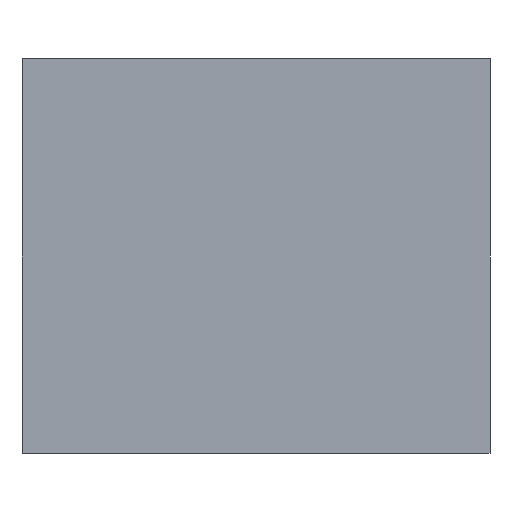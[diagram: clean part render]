
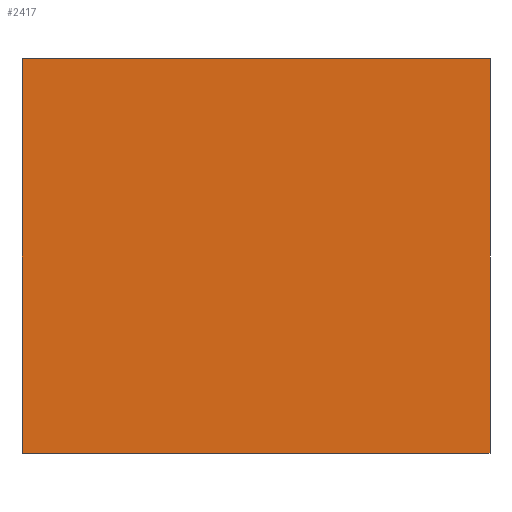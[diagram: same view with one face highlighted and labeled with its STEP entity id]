
A CAD part, front view. The second image highlights one B-rep face of the part: STEP entity #2417.
In plain terms, the highlighted planar face has unit normal (0, -1, 0).
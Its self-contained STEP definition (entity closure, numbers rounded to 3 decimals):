
#126 = CARTESIAN_POINT ( 'NONE',  ( -16.129, -0.127, -13.589 ) ) ;
#127 = LINE ( 'NONE', #2847, #1756 ) ;
#134 = LINE ( 'NONE', #1198, #971 ) ;
#176 = VECTOR ( 'NONE', #970, 1000. ) ;
#274 = CARTESIAN_POINT ( 'NONE',  ( -16.129, -0.127, -13.589 ) ) ;
#324 = CARTESIAN_POINT ( 'NONE',  ( 16.129, -0.127, -13.589 ) ) ;
#524 = DIRECTION ( 'NONE',  ( 1., 0., 0. ) ) ;
#563 = CARTESIAN_POINT ( 'NONE',  ( 16.129, -0.127, 13.589 ) ) ;
#575 = ORIENTED_EDGE ( 'NONE', *, *, #3046, .F. ) ;
#667 = VERTEX_POINT ( 'NONE', #563 ) ;
#844 = AXIS2_PLACEMENT_3D ( 'NONE', #878, #2191, #2964 ) ;
#878 = CARTESIAN_POINT ( 'NONE',  ( -16.129, -0.127, 13.589 ) ) ;
#943 = EDGE_CURVE ( 'NONE', #1844, #667, #134, .T. ) ;
#970 = DIRECTION ( 'NONE',  ( 0., 0., 1. ) ) ;
#971 = VECTOR ( 'NONE', #524, 1000. ) ;
#972 = VERTEX_POINT ( 'NONE', #274 ) ;
#999 = FACE_OUTER_BOUND ( 'NONE', #2861, .T. ) ;
#1198 = CARTESIAN_POINT ( 'NONE',  ( -16.129, -0.127, 13.589 ) ) ;
#1213 = EDGE_CURVE ( 'NONE', #667, #2237, #127, .T. ) ;
#1225 = CARTESIAN_POINT ( 'NONE',  ( -16.129, -0.127, -13.589 ) ) ;
#1425 = CARTESIAN_POINT ( 'NONE',  ( -16.129, -0.127, 13.589 ) ) ;
#1464 = LINE ( 'NONE', #1225, #176 ) ;
#1756 = VECTOR ( 'NONE', #2314, 1000. ) ;
#1844 = VERTEX_POINT ( 'NONE', #1425 ) ;
#2037 = LINE ( 'NONE', #126, #3162 ) ;
#2072 = PLANE ( 'NONE',  #844 ) ;
#2191 = DIRECTION ( 'NONE',  ( 0., 1., 0. ) ) ;
#2237 = VERTEX_POINT ( 'NONE', #324 ) ;
#2308 = EDGE_CURVE ( 'NONE', #972, #1844, #1464, .T. ) ;
#2314 = DIRECTION ( 'NONE',  ( 0., 0., -1. ) ) ;
#2417 = ADVANCED_FACE ( 'NONE', ( #999 ), #2072, .F. ) ;
#2847 = CARTESIAN_POINT ( 'NONE',  ( 16.129, -0.127, -13.589 ) ) ;
#2861 = EDGE_LOOP ( 'NONE', ( #3109, #575, #3161, #2975 ) ) ;
#2964 = DIRECTION ( 'NONE',  ( 0., 0., 1. ) ) ;
#2975 = ORIENTED_EDGE ( 'NONE', *, *, #943, .F. ) ;
#3046 = EDGE_CURVE ( 'NONE', #2237, #972, #2037, .T. ) ;
#3073 = DIRECTION ( 'NONE',  ( -1., 0., 0. ) ) ;
#3109 = ORIENTED_EDGE ( 'NONE', *, *, #2308, .F. ) ;
#3161 = ORIENTED_EDGE ( 'NONE', *, *, #1213, .F. ) ;
#3162 = VECTOR ( 'NONE', #3073, 1000. ) ;
